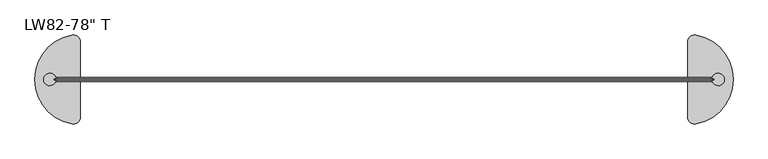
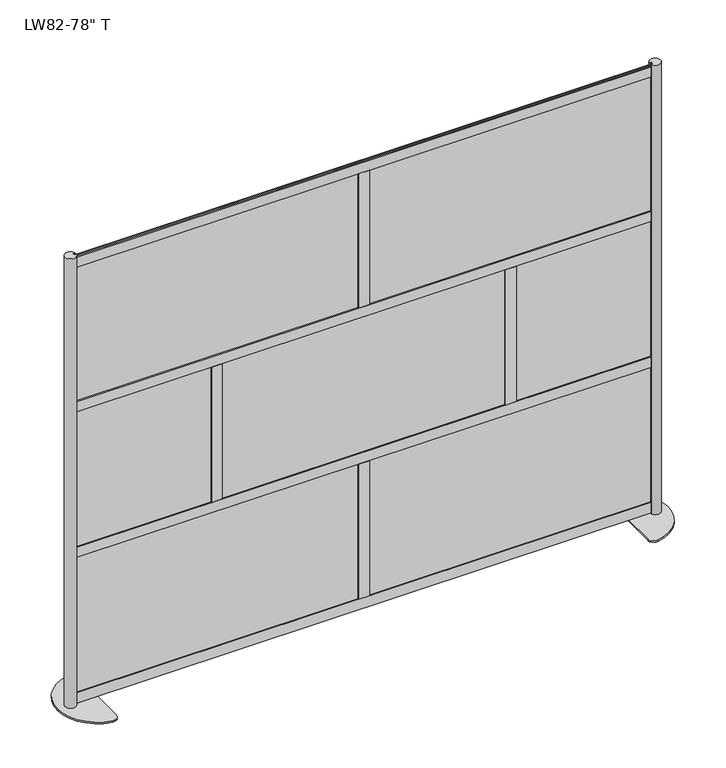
"""IFC4 building model written with IfcOpenShell, lengths in millimetres: furniture geometry."""

from ifc_helpers import new_model, si_unit, point, frame, frame_2d, origin, origin_with_axes, place, context, project, spatial, polyline, circle_curve, trimmed, segment, composite_curve, outline, extrude, source, transform, mapped, element, save


def furniture_b8c1659f(model_context):
    return source(origin(), model_context, "Body", "SweptSolid", [
        extrude(outline(polyline([(596.8955274, -1.5875), (-592.1419726, -1.5875), (-592.1419726, 1.5875), (596.8955274, 1.5875), (596.8955274, -1.5875)])), frame((0.0, 0.0, 689.2671), z_axis=(0.0, 0.0, 1.0), x_axis=(1.0, 0.0, 0.0)), (0.0, 0.0, 1.0), 608.965),
        extrude(outline(polyline([(1208.4321897, -1.5875), (19.3946897, -1.5875), (19.3946897, 1.5875), (1208.4321897, 1.5875), (1208.4321897, -1.5875)])), frame((0.0, 0.0, 49.2633), z_axis=(0.0, 0.0, 1.0), x_axis=(1.0, 0.0, 0.0)), (0.0, 0.0, 1.0), 608.965),
        extrude(outline(polyline([(-14.6411349, -1.5875), (-1203.6786349, -1.5875), (-1203.6786349, 1.5875), (-14.6411349, 1.5875), (-14.6411349, -1.5875)])), frame((0.0, 0.0, 49.2633), z_axis=(0.0, 0.0, 1.0), x_axis=(1.0, 0.0, 0.0)), (0.0, 0.0, 1.0), 608.965),
        extrude(outline(polyline([(1208.4321897, -1.5875), (19.3946897, -1.5875), (19.3946897, 1.5875), (1208.4321897, 1.5875), (1208.4321897, -1.5875)])), frame((0.0, 0.0, 1329.2709), z_axis=(0.0, 0.0, 1.0), x_axis=(1.0, 0.0, 0.0)), (0.0, 0.0, 1.0), 608.965),
        extrude(outline(polyline([(-14.6411349, -1.5875), (-1203.6786349, -1.5875), (-1203.6786349, 1.5875), (-14.6411349, 1.5875), (-14.6411349, -1.5875)])), frame((0.0, 0.0, 1329.2709), z_axis=(0.0, 0.0, 1.0), x_axis=(1.0, 0.0, 0.0)), (0.0, 0.0, 1.0), 608.965),
        extrude(outline(polyline([(625.9190822, 1.5875), (1203.769083, 1.5875), (1203.7689093, -1.5875), (625.9189085, -1.5875), (625.9190822, 1.5875)])), frame((0.0, 0.0, 689.2671), z_axis=(0.0, 0.0, 1.0), x_axis=(1.0, 0.0, 0.0)), (0.0, 0.0, 1.0), 608.965),
        extrude(outline(polyline([(-1202.9125801, 1.5875), (-625.0625793, 1.5875), (-625.0627529, -1.5875), (-1202.9127538, -1.5875), (-1202.9125801, 1.5875)])), frame((0.0, 0.0, 689.2671), z_axis=(0.0, 0.0, 1.0), x_axis=(1.0, 0.0, 0.0)), (0.0, 0.0, 1.0), 608.965),
        extrude(outline(polyline([(22.6314, 3.556), (15.5194, 3.556), (15.5194, -3.556), (22.6314, -3.556), (22.6314, -7.6327), (-22.6314, -7.6327), (-22.6314, -3.556), (-15.5194, -3.556), (-15.5194, 3.556), (-22.6314, 3.556), (-22.6314, 7.6327), (22.6314, 7.6327), (22.6314, 3.556)])), frame((0.0, 0.0, 1336.3829), z_axis=(0.0, 0.0, 1.0), x_axis=(1.0, 0.0, 0.0)), (0.0, 0.0, 1.0), 589.75625),
        extrude(outline(polyline([(22.6314, 3.556), (15.5194, 3.556), (15.5194, -3.556), (22.6314, -3.556), (22.6314, -7.6327), (-22.6314, -7.6327), (-22.6314, -3.556), (-15.5194, -3.556), (-15.5194, 3.556), (-22.6314, 3.556), (-22.6314, 7.6327), (22.6314, 7.6327), (22.6314, 3.556)])), frame((0.0, 0.0, 56.3753), z_axis=(0.0, 0.0, 1.0), x_axis=(1.0, 0.0, 0.0)), (0.0, 0.0, 1.0), 594.741),
        extrude(outline(polyline([(634.1680623, 3.556), (627.0560623, 3.556), (627.0560623, -3.556), (634.1680623, -3.556), (634.1680623, -7.6327), (588.9052623, -7.6327), (588.9052623, -3.556), (596.0172623, -3.556), (596.0172623, 3.556), (588.9052623, 3.556), (588.9052623, 7.6327), (634.1680623, 7.6327), (634.1680623, 3.556)])), frame((0.0, 0.0, 696.3791), z_axis=(0.0, 0.0, 1.0), x_axis=(1.0, 0.0, 0.0)), (0.0, 0.0, 1.0), 594.741),
        extrude(outline(polyline([(-634.1680623, 3.556), (-634.1680623, 7.6327), (-588.9052623, 7.6327), (-588.9052623, 3.556), (-596.0172623, 3.556), (-596.0172623, -3.556), (-588.9052623, -3.556), (-588.9052623, -7.6327), (-634.1680623, -7.6327), (-634.1680623, -3.556), (-627.0560623, -3.556), (-627.0560623, 3.556), (-634.1680623, 3.556)])), frame((0.0, 0.0, 696.3791), z_axis=(0.0, 0.0, 1.0), x_axis=(1.0, 0.0, 0.0)), (0.0, 0.0, 1.0), 594.741),
        extrude(outline(polyline([(3.556, 651.1163), (3.556, 658.2283), (-3.556, 658.2283), (-3.556, 651.1163), (-7.6327, 651.1163), (-7.6327, 696.3791), (-3.556, 696.3791), (-3.556, 689.2671), (3.556, 689.2671), (3.556, 696.3791), (7.6327, 696.3791), (7.6327, 651.1163), (3.556, 651.1163)])), frame((-1194.5874, 0.0, 0.0), z_axis=(1.0, 0.0, 0.0), x_axis=(0.0, 1.0, 0.0)), (0.0, 0.0, 1.0), 2389.1748),
        extrude(outline(polyline([(3.556, 1291.1201), (3.556, 1298.2321), (-3.556, 1298.2321), (-3.556, 1291.1201), (-7.6327, 1291.1201), (-7.6327, 1336.3829), (-3.556, 1336.3829), (-3.556, 1329.2709), (3.556, 1329.2709), (3.556, 1336.3829), (7.6327, 1336.3829), (7.6327, 1291.1201), (3.556, 1291.1201)])), frame((-1194.5874, 0.0, 0.0), z_axis=(1.0, 0.0, 0.0), x_axis=(0.0, 1.0, 0.0)), (0.0, 0.0, 1.0), 2389.1748),
        extrude(outline(polyline([(3.556, 11.1125), (3.556, 18.2245), (-3.556, 18.2245), (-3.556, 11.1125), (-7.6327, 11.1125), (-7.6327, 56.3753), (-3.556, 56.3753), (-3.556, 49.2633), (3.556, 49.2633), (3.556, 56.3753), (7.6327, 56.3753), (7.6327, 11.1125), (3.556, 11.1125)])), frame((-1194.6636, 0.0, 0.0), z_axis=(1.0, 0.0, 0.0), x_axis=(0.0, 1.0, 0.0)), (0.0, 0.0, 1.0), 2389.3272),
        extrude(outline(polyline([(3.556, 1926.1200292), (3.556, 1933.2320292), (-3.556, 1933.2320292), (-3.556, 1926.1200292), (-7.6327, 1926.1200292), (-7.6327, 1971.3828292), (-3.556, 1971.3828292), (-3.556, 1964.2708292), (3.556, 1964.2708292), (3.556, 1971.3828292), (7.6327, 1971.3828292), (7.6327, 1926.1200292), (3.556, 1926.1200292)])), frame((-1194.6636, 0.0, 0.0), z_axis=(1.0, 0.0, 0.0), x_axis=(0.0, 1.0, 0.0)), (0.0, 0.0, 1.0), 2389.3272),
        extrude(outline(composite_curve([segment(polyline([(1194.6636, -7.7568093), (1194.6636, -3.556), (1201.7756, -3.556), (1201.7756, 3.556), (1194.6636, 3.556), (1194.6636, 7.7568093)]), True, "CONTINUOUS"), segment(trimmed(circle_curve(frame_2d((1215.7665837, 0.0)), 22.4834163), [point((1194.6636, 7.7568093))], [point((1194.6636, -7.7568093))], False, "CARTESIAN"), True, "CONTINUOUS")], self_intersect=False)), frame((0.0, 0.0, 6.35), z_axis=(0.0, 0.0, 1.0), x_axis=(1.0, 0.0, 0.0)), (0.0, 0.0, 1.0), 1974.85),
        extrude(outline(composite_curve([segment(polyline([(1104.9, -137.3715036), (1104.9, 137.3715036)]), True, "CONTINUOUS"), segment(trimmed(circle_curve(frame_2d((1130.3, 137.3715036)), 25.4), [point((1104.9, 137.3715036))], [point((1134.9181818, 162.3481406))], False, "CARTESIAN"), True, "CONTINUOUS"), segment(trimmed(circle_curve(frame_2d((1104.9, 0.0)), 165.1), [point((1134.9181818, 162.3481406))], [point((1270.0, 0.0))], False, "CARTESIAN"), True, "CONTINUOUS"), segment(trimmed(circle_curve(frame_2d((1104.9, 0.0)), 165.1), [point((1270.0, 0.0))], [point((1134.9181818, -162.3481406))], False, "CARTESIAN"), True, "CONTINUOUS"), segment(trimmed(circle_curve(frame_2d((1130.3, -137.3715036)), 25.4), [point((1134.9181818, -162.3481406))], [point((1104.9, -137.3715036))], False, "CARTESIAN"), True, "CONTINUOUS")], self_intersect=False)), origin_with_axes(), (0.0, 0.0, 1.0), 6.35),
        extrude(outline(composite_curve([segment(trimmed(circle_curve(frame_2d((-1215.7665837, 0.0)), 22.4834163), [point((-1194.6636, -7.7568093))], [point((-1194.6636, 7.7568093))], False, "CARTESIAN"), True, "CONTINUOUS"), segment(polyline([(-1194.6636, 7.7568093), (-1194.6636, 3.556), (-1201.7756, 3.556), (-1201.7756, -3.556), (-1194.6636, -3.556), (-1194.6636, -7.7568093)]), True, "CONTINUOUS")], self_intersect=False)), frame((0.0, 0.0, 6.35), z_axis=(0.0, 0.0, 1.0), x_axis=(1.0, 0.0, 0.0)), (0.0, 0.0, 1.0), 1974.85),
        extrude(outline(composite_curve([segment(trimmed(circle_curve(frame_2d((-1130.3, -137.3715036)), 25.4), [point((-1104.9, -137.3715036))], [point((-1134.9181818, -162.3481406))], False, "CARTESIAN"), True, "CONTINUOUS"), segment(trimmed(circle_curve(frame_2d((-1104.9, 0.0)), 165.1), [point((-1134.9181818, -162.3481406))], [point((-1270.0, 0.0))], False, "CARTESIAN"), True, "CONTINUOUS"), segment(trimmed(circle_curve(frame_2d((-1104.9, 0.0)), 165.1), [point((-1270.0, 0.0))], [point((-1134.9181818, 162.3481406))], False, "CARTESIAN"), True, "CONTINUOUS"), segment(trimmed(circle_curve(frame_2d((-1130.3, 137.3715036)), 25.4), [point((-1134.9181818, 162.3481406))], [point((-1104.9, 137.3715036))], False, "CARTESIAN"), True, "CONTINUOUS"), segment(polyline([(-1104.9, 137.3715036), (-1104.9, -137.3715036)]), True, "CONTINUOUS")], self_intersect=False)), origin_with_axes(), (0.0, 0.0, 1.0), 6.35),
    ])


if __name__ == "__main__":
    model = new_model("IFC4")
    model_context = context("Model", 3, world=origin())
    ifc_project = project(units=[si_unit("LENGTHUNIT", "METRE", prefix="MILLI")], contexts=[model_context])
    site = spatial("IfcSite", under=ifc_project)
    building = spatial("IfcBuilding", under=site)
    placement = place(None, origin())
    furniture_shape = furniture_b8c1659f(model_context)
    element("IfcFurniture", 1, ObjectType="Loft_Wall-Framewall-100 : LW82-78\" T", at=placement, inside=building, context=model_context, shape_type="MappedRepresentation", body=[
        mapped(furniture_shape, transform((0.0, 0.0, 0.0), x_axis=(1.0, 0.0, 0.0), y_axis=(0.0, 1.0, 0.0), z_axis=(0.0, 0.0, 1.0))),
    ])
    save(model, "model.ifc")
